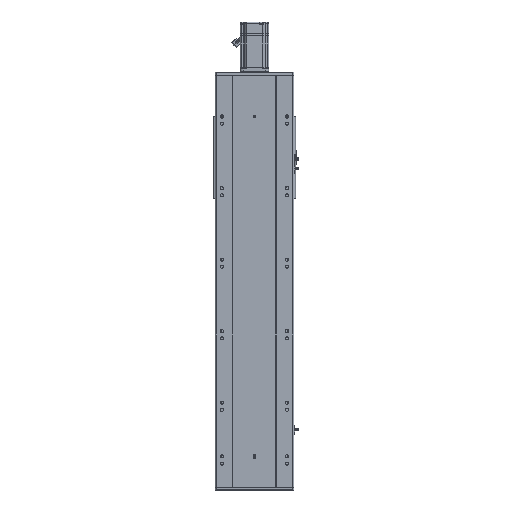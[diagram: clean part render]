
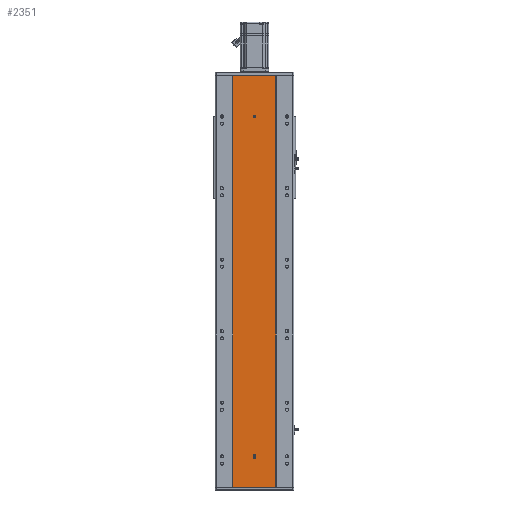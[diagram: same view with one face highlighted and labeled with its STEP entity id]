
A CAD part, front view. The second image highlights one B-rep face of the part: STEP entity #2351.
In plain terms, the highlighted planar face has unit normal (0, -1, 0).
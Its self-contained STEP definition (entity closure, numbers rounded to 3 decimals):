
#306 = DIRECTION ( 'NONE',  ( 0., 1., 0. ) ) ;
#476 = VERTEX_POINT ( 'NONE', #42991 ) ;
#646 = ORIENTED_EDGE ( 'NONE', *, *, #40070, .F. ) ;
#1835 = CIRCLE ( 'NONE', #40799, 4. ) ;
#1860 = EDGE_CURVE ( 'NONE', #476, #9023, #30345, .T. ) ;
#1891 = CARTESIAN_POINT ( 'NONE',  ( -60., 0., 0. ) ) ;
#2351 = ADVANCED_FACE ( 'NONE', ( #52557, #29390, #15675 ), #27923, .F. ) ;
#2649 = LINE ( 'NONE', #3315, #59327 ) ;
#2819 = ORIENTED_EDGE ( 'NONE', *, *, #10570, .T. ) ;
#3315 = CARTESIAN_POINT ( 'NONE',  ( -4., 0., 84.5 ) ) ;
#3620 = DIRECTION ( 'NONE',  ( 0., 0., -1. ) ) ;
#3800 = CARTESIAN_POINT ( 'NONE',  ( -60., 0., 1150. ) ) ;
#6086 = ORIENTED_EDGE ( 'NONE', *, *, #53435, .F. ) ;
#6096 = EDGE_LOOP ( 'NONE', ( #2819, #27196, #17288, #9437 ) ) ;
#6838 = CARTESIAN_POINT ( 'NONE',  ( 0., 0., 1036. ) ) ;
#8356 = DIRECTION ( 'NONE',  ( 0., 0., -1. ) ) ;
#8455 = ORIENTED_EDGE ( 'NONE', *, *, #51756, .F. ) ;
#8535 = CARTESIAN_POINT ( 'NONE',  ( -4., 0., 87.5 ) ) ;
#9023 = VERTEX_POINT ( 'NONE', #58494 ) ;
#9437 = ORIENTED_EDGE ( 'NONE', *, *, #47630, .T. ) ;
#10570 = EDGE_CURVE ( 'NONE', #45792, #9023, #25483, .T. ) ;
#11878 = CARTESIAN_POINT ( 'NONE',  ( -60., 0., 1150. ) ) ;
#12242 = DIRECTION ( 'NONE',  ( 0., -1., 0. ) ) ;
#13960 = AXIS2_PLACEMENT_3D ( 'NONE', #68301, #69710, #3620 ) ;
#14294 = AXIS2_PLACEMENT_3D ( 'NONE', #71002, #32911, #66167 ) ;
#15675 = FACE_OUTER_BOUND ( 'NONE', #6096, .T. ) ;
#15991 = EDGE_LOOP ( 'NONE', ( #21051, #57909, #8455, #17348, #36529 ) ) ;
#16665 = CARTESIAN_POINT ( 'NONE',  ( -60., 0., 1150. ) ) ;
#16906 = DIRECTION ( 'NONE',  ( 0., 0., 1. ) ) ;
#17241 = CARTESIAN_POINT ( 'NONE',  ( 0., 0., 1032. ) ) ;
#17288 = ORIENTED_EDGE ( 'NONE', *, *, #39068, .F. ) ;
#17348 = ORIENTED_EDGE ( 'NONE', *, *, #29045, .F. ) ;
#17758 = CARTESIAN_POINT ( 'NONE',  ( 0., 0., 87.5 ) ) ;
#17963 = DIRECTION ( 'NONE',  ( 1., 0., 0. ) ) ;
#20338 = CARTESIAN_POINT ( 'NONE',  ( 0., 0., 80.5 ) ) ;
#21051 = ORIENTED_EDGE ( 'NONE', *, *, #34935, .F. ) ;
#21406 = LINE ( 'NONE', #46063, #61800 ) ;
#22034 = VECTOR ( 'NONE', #17963, 1000. ) ;
#22050 = CARTESIAN_POINT ( 'NONE',  ( -60., 0., 0. ) ) ;
#22489 = VERTEX_POINT ( 'NONE', #17241 ) ;
#25483 = LINE ( 'NONE', #1891, #22034 ) ;
#27196 = ORIENTED_EDGE ( 'NONE', *, *, #1860, .F. ) ;
#27768 = CARTESIAN_POINT ( 'NONE',  ( 0., 0., 84.5 ) ) ;
#27923 = PLANE ( 'NONE',  #64228 ) ;
#28274 = VERTEX_POINT ( 'NONE', #32469 ) ;
#29045 = EDGE_CURVE ( 'NONE', #54741, #28274, #2649, .T. ) ;
#29390 = FACE_BOUND ( 'NONE', #15991, .T. ) ;
#30345 = LINE ( 'NONE', #67702, #47488 ) ;
#31271 = VECTOR ( 'NONE', #63073, 1000. ) ;
#31808 = DIRECTION ( 'NONE',  ( 1., 0., 0. ) ) ;
#32198 = VERTEX_POINT ( 'NONE', #63798 ) ;
#32469 = CARTESIAN_POINT ( 'NONE',  ( -4., 0., 84.5 ) ) ;
#32869 = EDGE_CURVE ( 'NONE', #61242, #32198, #42177, .T. ) ;
#32911 = DIRECTION ( 'NONE',  ( 0., -1., 0. ) ) ;
#34147 = DIRECTION ( 'NONE',  ( 0., -1., 0. ) ) ;
#34655 = DIRECTION ( 'NONE',  ( 0., 0., -1. ) ) ;
#34935 = EDGE_CURVE ( 'NONE', #32198, #55895, #21406, .T. ) ;
#36529 = ORIENTED_EDGE ( 'NONE', *, *, #70724, .F. ) ;
#37387 = EDGE_LOOP ( 'NONE', ( #6086, #646 ) ) ;
#38131 = LINE ( 'NONE', #69143, #31271 ) ;
#39068 = EDGE_CURVE ( 'NONE', #50666, #476, #48484, .T. ) ;
#40070 = EDGE_CURVE ( 'NONE', #53233, #22489, #64194, .T. ) ;
#40799 = AXIS2_PLACEMENT_3D ( 'NONE', #17758, #12242, #44810 ) ;
#42177 = CIRCLE ( 'NONE', #14294, 4. ) ;
#42991 = CARTESIAN_POINT ( 'NONE',  ( 60., 0., 1150. ) ) ;
#44810 = DIRECTION ( 'NONE',  ( 0., 0., -1. ) ) ;
#45792 = VERTEX_POINT ( 'NONE', #22050 ) ;
#46063 = CARTESIAN_POINT ( 'NONE',  ( 4., 0., 84.5 ) ) ;
#47488 = VECTOR ( 'NONE', #34655, 1000. ) ;
#47630 = EDGE_CURVE ( 'NONE', #50666, #45792, #38131, .T. ) ;
#48484 = LINE ( 'NONE', #3800, #64040 ) ;
#49521 = CIRCLE ( 'NONE', #61968, 4. ) ;
#49883 = AXIS2_PLACEMENT_3D ( 'NONE', #27768, #50748, #57250 ) ;
#50666 = VERTEX_POINT ( 'NONE', #11878 ) ;
#50748 = DIRECTION ( 'NONE',  ( 0., -1., 0. ) ) ;
#51609 = DIRECTION ( 'NONE',  ( 0., 0., 1. ) ) ;
#51756 = EDGE_CURVE ( 'NONE', #28274, #61242, #60121, .T. ) ;
#52557 = FACE_BOUND ( 'NONE', #37387, .T. ) ;
#53233 = VERTEX_POINT ( 'NONE', #64993 ) ;
#53435 = EDGE_CURVE ( 'NONE', #22489, #53233, #49521, .T. ) ;
#54741 = VERTEX_POINT ( 'NONE', #8535 ) ;
#55895 = VERTEX_POINT ( 'NONE', #56210 ) ;
#56210 = CARTESIAN_POINT ( 'NONE',  ( 4., 0., 87.5 ) ) ;
#57250 = DIRECTION ( 'NONE',  ( 0., 0., -1. ) ) ;
#57909 = ORIENTED_EDGE ( 'NONE', *, *, #32869, .F. ) ;
#58494 = CARTESIAN_POINT ( 'NONE',  ( 60., 0., 0. ) ) ;
#59327 = VECTOR ( 'NONE', #8356, 1000. ) ;
#60121 = CIRCLE ( 'NONE', #49883, 4. ) ;
#61242 = VERTEX_POINT ( 'NONE', #20338 ) ;
#61800 = VECTOR ( 'NONE', #51609, 1000. ) ;
#61968 = AXIS2_PLACEMENT_3D ( 'NONE', #6838, #34147, #62050 ) ;
#62050 = DIRECTION ( 'NONE',  ( 0., 0., -1. ) ) ;
#63073 = DIRECTION ( 'NONE',  ( 0., 0., -1. ) ) ;
#63798 = CARTESIAN_POINT ( 'NONE',  ( 4., 0., 84.5 ) ) ;
#64040 = VECTOR ( 'NONE', #31808, 1000. ) ;
#64194 = CIRCLE ( 'NONE', #13960, 4. ) ;
#64228 = AXIS2_PLACEMENT_3D ( 'NONE', #16665, #306, #16906 ) ;
#64993 = CARTESIAN_POINT ( 'NONE',  ( 0., 0., 1040. ) ) ;
#66167 = DIRECTION ( 'NONE',  ( 0., 0., -1. ) ) ;
#67702 = CARTESIAN_POINT ( 'NONE',  ( 60., 0., 1150. ) ) ;
#68301 = CARTESIAN_POINT ( 'NONE',  ( 0., 0., 1036. ) ) ;
#69143 = CARTESIAN_POINT ( 'NONE',  ( -60., 0., 1150. ) ) ;
#69710 = DIRECTION ( 'NONE',  ( 0., -1., 0. ) ) ;
#70724 = EDGE_CURVE ( 'NONE', #55895, #54741, #1835, .T. ) ;
#71002 = CARTESIAN_POINT ( 'NONE',  ( 0., 0., 84.5 ) ) ;
